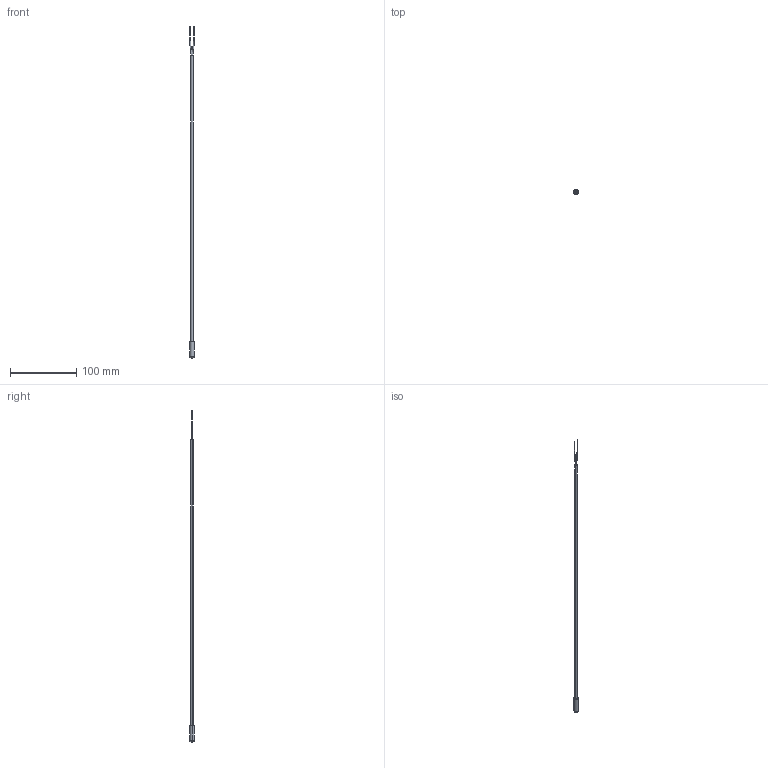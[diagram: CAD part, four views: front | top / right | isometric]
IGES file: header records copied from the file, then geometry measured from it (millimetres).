
Start section: SolidWorks IGES file using analytic representation for surfaces
Global section: file name: D:\Data\0 ASSEMBLY\641 90143-90144 REFRIGERATOR GENERICS___\SW_NTCACAPE3C90144a\NTCACAPE3C90144.IGS; native system: SolidWorks 2014; preprocessor: SolidWorks 2014; author: rwacheux; date: 140908.113636; units: millimetre
Bounding box: 7.65 x 7 x 500 mm (x, y, z)
Surface area: 6385 mm2 (no closed solid volume)
Topology: 0 solids, 0 shells, 26 faces, 272 edges, 272 vertices
Faces by surface type: bspline 14, revolution 12
